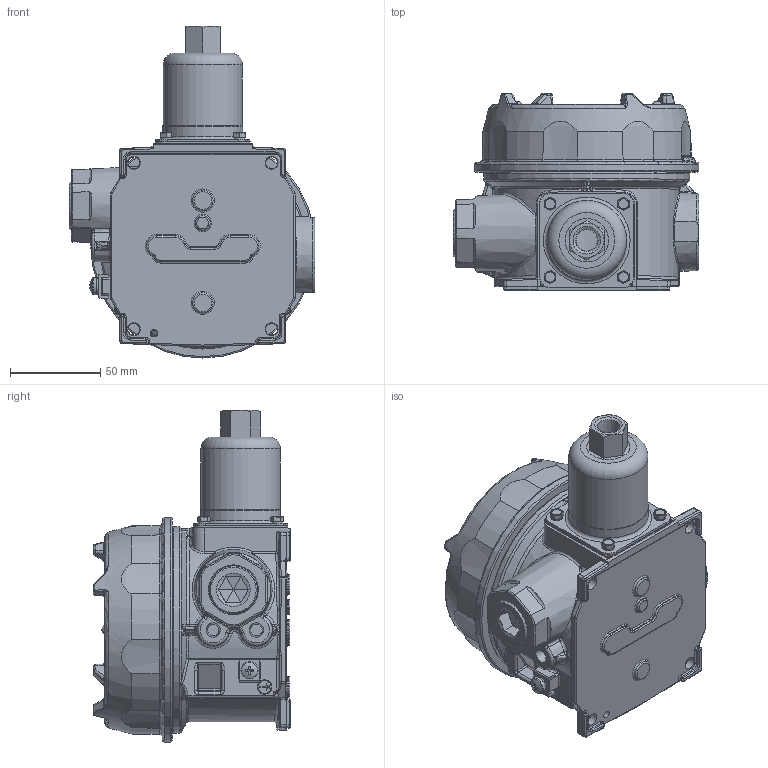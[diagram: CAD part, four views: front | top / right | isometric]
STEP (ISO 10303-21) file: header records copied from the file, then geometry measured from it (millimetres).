
FILE_DESCRIPTION (( 'STEP AP214' ), '1' );
FILE_NAME ('J120-126_164_V4.STEP', '2025-03-13T19:02:20', ( '' ), ( '' ), 'SwSTEP 2.0', 'SolidWorks 2023', '' );
FILE_SCHEMA (( 'AUTOMOTIVE_DESIGN' ));
Length unit declared in the file: inch
Products named in the file (1): J120-126_164_V4
Bounding box: 135.89 x 109.35 x 183.69 mm (x, y, z)
Surface area: 91743.3 mm2 (no closed solid volume)
Topology: 0 solids, 27 shells, 987 faces, 2521 edges, 1494 vertices
Faces by surface type: bspline 242, plane 222, cylinder 217, torus 150, cone 123, sphere 33
Full cylindrical faces by diameter (mm): 3.22 x1, 5.556 x4, 7.366 x1, 7.874 x1, 9.5 x1, 23.812 x1, 43.917 x1, 44.196 x1, 87.312 x1, 114.046 x1, 123.952 x1
Entity records: 39870 total; most frequent: CARTESIAN_POINT 18895, ORIENTED_EDGE 4403, DIRECTION 4060, EDGE_CURVE 2388, AXIS2_PLACEMENT_3D 1696, VERTEX_POINT 1471, EDGE_LOOP 1117, FACE_OUTER_BOUND 1027
